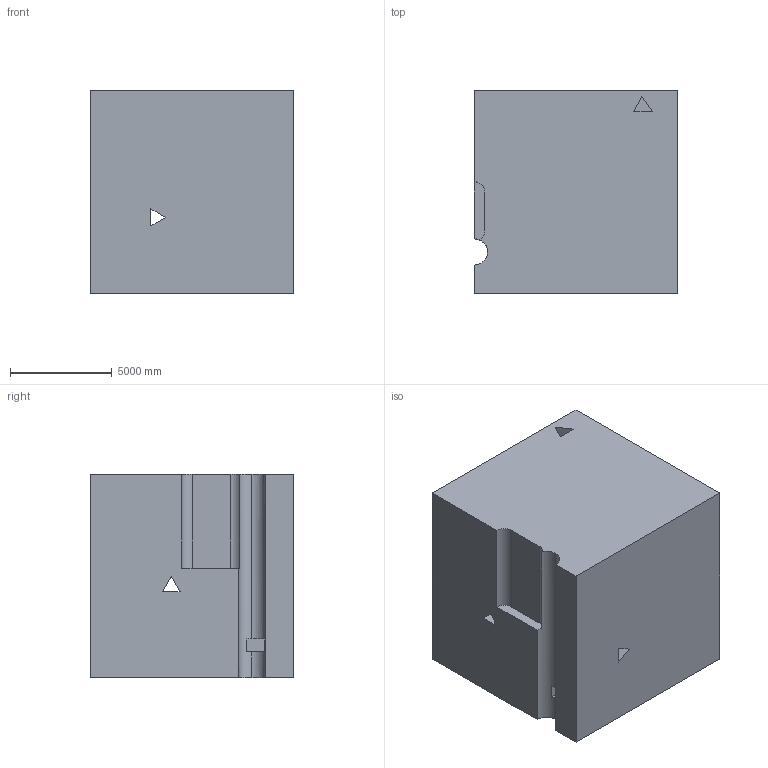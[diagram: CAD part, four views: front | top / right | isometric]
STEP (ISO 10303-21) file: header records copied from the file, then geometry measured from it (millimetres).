
FILE_DESCRIPTION (( 'STEP AP203' ), '1' );
FILE_NAME ('167.STEP', '2022-09-06T13:30:16', ( 'user' ), ( '' ), 'SwSTEP 2.0', 'SolidWorks 2021', '' );
FILE_SCHEMA (( 'CONFIG_CONTROL_DESIGN' ));
Length unit declared in the file: centimetre
Products named in the file (1): 167
Bounding box: 10000 x 10000 x 10000 mm (x, y, z)
Volume: 950514784568.9 mm3; surface area: 722976291.5 mm2
Topology: 1 solids, 1 shells, 31 faces, 81 edges, 54 vertices
Faces by surface type: plane 25, cylinder 6
Entity records: 1037 total; most frequent: CARTESIAN_POINT 167, DIRECTION 162, ORIENTED_EDGE 162, EDGE_CURVE 81, VECTOR 64, LINE 64, VERTEX_POINT 54, AXIS2_PLACEMENT_3D 49
